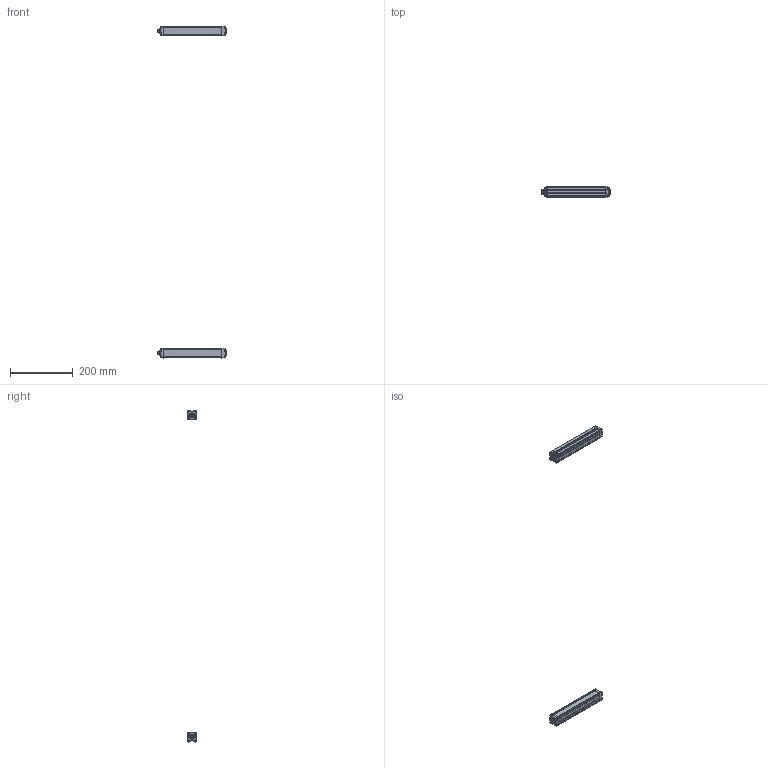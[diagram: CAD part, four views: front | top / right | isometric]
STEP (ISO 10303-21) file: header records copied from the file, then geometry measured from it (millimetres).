
FILE_DESCRIPTION(/* description */ (''),/* implementation_level */ '2;1');
FILE_NAME(/* name */ 'THS10-16.stp',/* time_stamp */ '2023-08-09T17:11:34+08:00',/* author */ (''),/* organization */ (''),/* preprocessor_version */ 'ST-DEVELOPER v16',/* originating_system */ 'SIEMENS PLM Software NX 11.0',/* authorisation */ '');
FILE_SCHEMA (('AP203_CONFIGURATION_CONTROLLED_3D_DESIGN_OF_MECHANICAL_PARTS_AND_ASSEMBLIES_MIM_LF { 1 0 10303 403 2 1 2}'));
Length unit declared in the file: millimetre
Products named in the file (10): 16; 14; 12; 13; 102; 101; 11; ASM0002_ASM; THS10-100; 0
Assembly tree (10 placements, depth 4):
  0
    THS10-100  x2
      11
      101
      102
      13
      12
      ASM0002_ASM
        14
        16
Bounding box: 217 x 30.3 x 1058.6 mm (x, y, z)
Volume: 124371.8 mm3; surface area: 156556.5 mm2
Topology: 10 solids, 14 shells, 1080 faces, 3010 edges, 1986 vertices
Faces by surface type: plane 764, cylinder 288, cone 28
Entity records: 18607 total; most frequent: CARTESIAN_POINT 3166, ORIENTED_EDGE 3006, DIRECTION 2923, EDGE_CURVE 1505, LINE 1173, VECTOR 1173, VERTEX_POINT 993, AXIS2_PLACEMENT_3D 875
